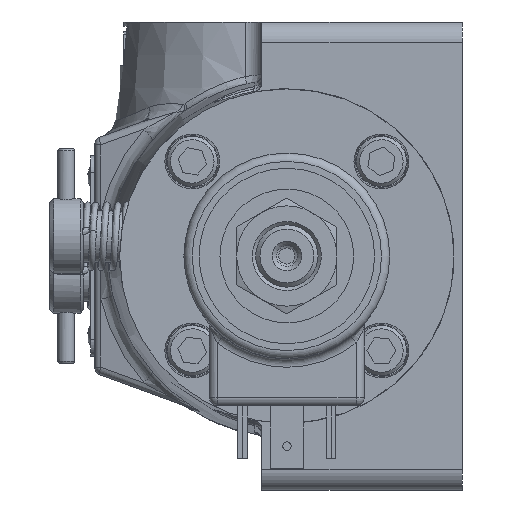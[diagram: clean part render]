
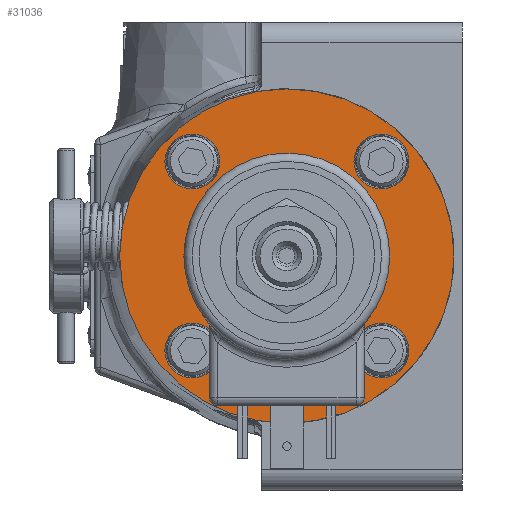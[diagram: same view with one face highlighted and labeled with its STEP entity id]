
A CAD part, left-side view. The second image highlights one B-rep face of the part: STEP entity #31036.
In plain terms, the highlighted planar face has unit normal (-1, 0, 0).
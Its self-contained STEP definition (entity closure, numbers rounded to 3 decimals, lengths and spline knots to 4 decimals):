
#5636=PLANE('',#33266);
#6404=FACE_BOUND('',#9268,.T.);
#6405=FACE_BOUND('',#9269,.T.);
#6406=FACE_BOUND('',#9270,.T.);
#6407=FACE_BOUND('',#9271,.T.);
#6408=FACE_BOUND('',#9272,.T.);
#7130=FACE_OUTER_BOUND('',#9267,.T.);
#9267=EDGE_LOOP('',(#20847));
#9268=EDGE_LOOP('',(#20848));
#9269=EDGE_LOOP('',(#20849));
#9270=EDGE_LOOP('',(#20850));
#9271=EDGE_LOOP('',(#20851));
#9272=EDGE_LOOP('',(#20852));
#11788=CIRCLE('',#33209,0.521);
#11789=CIRCLE('',#33211,0.521);
#11790=CIRCLE('',#33213,0.521);
#11791=CIRCLE('',#33215,0.521);
#11813=CIRCLE('',#33265,1.9234);
#11814=CIRCLE('',#33267,3.175);
#13206=VERTEX_POINT('',#45730);
#13207=VERTEX_POINT('',#45733);
#13208=VERTEX_POINT('',#45736);
#13209=VERTEX_POINT('',#45739);
#13241=VERTEX_POINT('',#45881);
#13242=VERTEX_POINT('',#45884);
#16138=EDGE_CURVE('',#13206,#13206,#11788,.T.);
#16139=EDGE_CURVE('',#13207,#13207,#11789,.T.);
#16140=EDGE_CURVE('',#13208,#13208,#11790,.T.);
#16141=EDGE_CURVE('',#13209,#13209,#11791,.T.);
#16192=EDGE_CURVE('',#13241,#13241,#11813,.T.);
#16193=EDGE_CURVE('',#13242,#13242,#11814,.T.);
#20847=ORIENTED_EDGE('',*,*,#16193,.F.);
#20848=ORIENTED_EDGE('',*,*,#16138,.T.);
#20849=ORIENTED_EDGE('',*,*,#16139,.T.);
#20850=ORIENTED_EDGE('',*,*,#16140,.T.);
#20851=ORIENTED_EDGE('',*,*,#16141,.T.);
#20852=ORIENTED_EDGE('',*,*,#16192,.T.);
#31036=ADVANCED_FACE('',(#7130,#6404,#6405,#6406,#6407,#6408),#5636,.T.);
#33209=AXIS2_PLACEMENT_3D('',#45731,#36664,#36665);
#33211=AXIS2_PLACEMENT_3D('',#45734,#36668,#36669);
#33213=AXIS2_PLACEMENT_3D('',#45737,#36672,#36673);
#33215=AXIS2_PLACEMENT_3D('',#45740,#36676,#36677);
#33265=AXIS2_PLACEMENT_3D('',#45882,#36790,#36791);
#33266=AXIS2_PLACEMENT_3D('',#45883,#36792,#36793);
#33267=AXIS2_PLACEMENT_3D('',#45885,#36794,#36795);
#36664=DIRECTION('center_axis',(1.,0.,0.));
#36665=DIRECTION('ref_axis',(0.,-1.,0.));
#36668=DIRECTION('center_axis',(1.,0.,0.));
#36669=DIRECTION('ref_axis',(0.,0.,
1.));
#36672=DIRECTION('center_axis',(1.,0.,0.));
#36673=DIRECTION('ref_axis',(0.,1.,0.));
#36676=DIRECTION('center_axis',(1.,0.,0.));
#36677=DIRECTION('ref_axis',(0.,0.,
-1.));
#36790=DIRECTION('center_axis',(1.,0.,0.));
#36791=DIRECTION('ref_axis',(0.,1.,0.));
#36792=DIRECTION('center_axis',(-1.,0.,0.));
#36793=DIRECTION('ref_axis',(0.,0.,1.));
#36794=DIRECTION('center_axis',(1.,0.,0.));
#36795=DIRECTION('ref_axis',(0.,1.,0.));
#45730=CARTESIAN_POINT('',(-7.5425,2.3171,-1.7961));
#45731=CARTESIAN_POINT('Origin',(-7.5425,1.7961,-1.7961));
#45733=CARTESIAN_POINT('',(-7.5425,-1.7961,-2.3171));
#45734=CARTESIAN_POINT('Origin',(-7.5425,-1.7961,-1.7961));
#45736=CARTESIAN_POINT('',(-7.5425,-2.3171,1.7961));
#45737=CARTESIAN_POINT('Origin',(-7.5425,-1.7961,1.7961));
#45739=CARTESIAN_POINT('',(-7.5425,1.7961,2.3171));
#45740=CARTESIAN_POINT('Origin',(-7.5425,1.7961,1.7961));
#45881=CARTESIAN_POINT('',(-7.5425,1.9234,0.));
#45882=CARTESIAN_POINT('Origin',(-7.5425,0.,
0.));
#45883=CARTESIAN_POINT('Origin',(-7.5425,2.5492,0.));
#45884=CARTESIAN_POINT('',(-7.5425,3.175,0.));
#45885=CARTESIAN_POINT('Origin',(-7.5425,0.,
0.));
